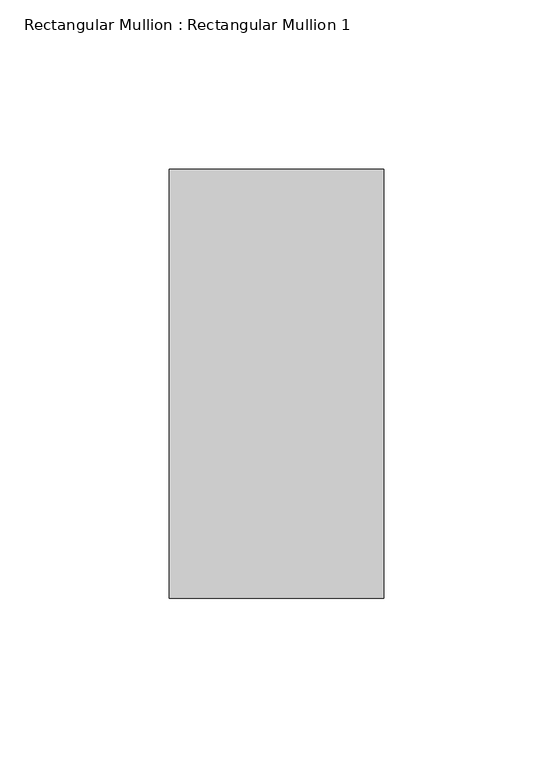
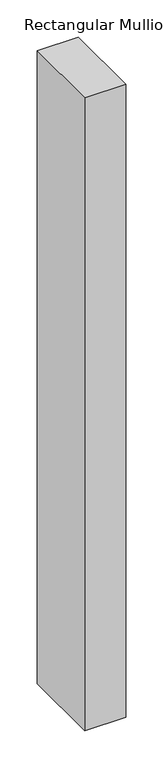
"""IFC4 building model written with IfcOpenShell, lengths in millimetres: member geometry, Rectangular Mullion : Rectangular Mullion 1."""

from ifc_helpers import new_model, si_unit, frame, origin, place, context, project, spatial, polyline, outline, extrude, source, transform, mapped, element, save


def rectangular_mullion_rectangular_mullion_1_fc7f002c(model_context):
    return source(origin(), model_context, "Body", "SweptSolid", [
        extrude(outline(polyline([(31.75, 63.5), (31.75, -63.5), (-31.75, -63.5), (-31.75, 63.5), (31.75, 63.5)])), frame((0.0, 0.0, -1036.2757062), z_axis=(0.0, 0.0, 1.0), x_axis=(1.0, 0.0, 0.0)), (0.0, 0.0, 1.0), 1036.2757062),
    ])


if __name__ == "__main__":
    model = new_model("IFC4")
    model_context = context("Model", 3, world=origin())
    ifc_project = project(units=[si_unit("LENGTHUNIT", "METRE", prefix="MILLI")], contexts=[model_context])
    site = spatial("IfcSite", under=ifc_project)
    building = spatial("IfcBuilding", under=site)
    placement = place(None, origin())
    rectangular_mullion_rectangular_mullion_1_shape = rectangular_mullion_rectangular_mullion_1_fc7f002c(model_context)
    element("IfcMember", 1, ObjectType="Rectangular Mullion : Rectangular Mullion 1", at=placement, inside=building, context=model_context, shape_type="MappedRepresentation", body=[
        mapped(rectangular_mullion_rectangular_mullion_1_shape, transform((0.0, 0.0, 0.0), x_axis=(1.0, 0.0, 0.0), y_axis=(0.0, 1.0, 0.0), z_axis=(0.0, 0.0, 1.0))),
    ])
    save(model, "model.ifc")
